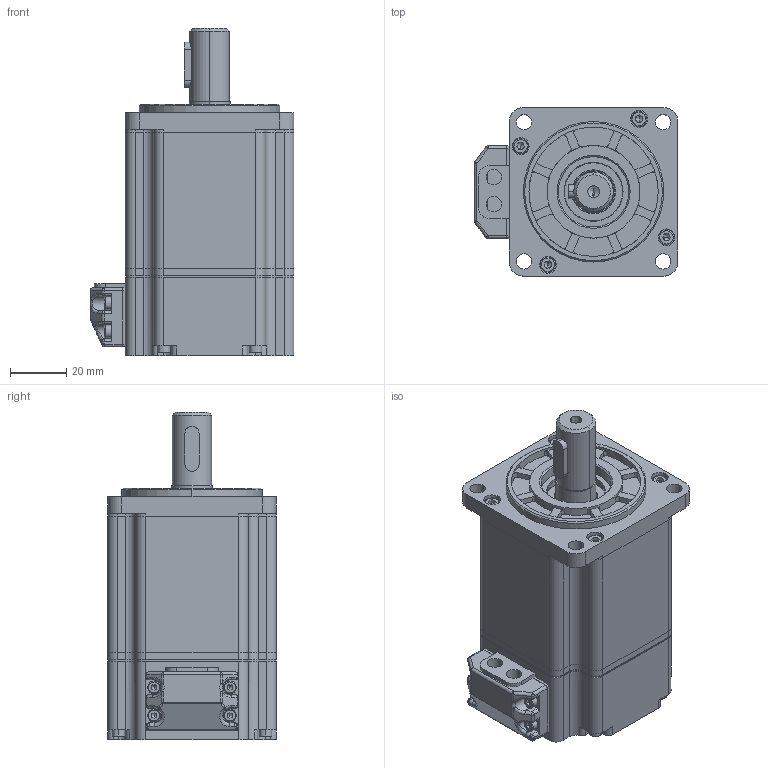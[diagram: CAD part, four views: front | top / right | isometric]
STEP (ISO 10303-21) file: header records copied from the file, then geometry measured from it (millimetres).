
FILE_DESCRIPTION (( 'STEP AP203' ), '1' );
FILE_NAME ('淕儂蚾饜1.STEP', '2020-03-17T06:42:39', ( 'admin' ), ( '' ), 'SwSTEP 2.0', 'SolidWorks 2016', '' );
FILE_SCHEMA (( 'CONFIG_CONTROL_DESIGN' ));
Length unit declared in the file: millimetre
Products named in the file (1): 淕儂蚾饜1
Bounding box: 72.5 x 60 x 116.5 mm (x, y, z)
Volume: 120926.2 mm3; surface area: 81808.5 mm2
Topology: 22 solids, 22 shells, 1310 faces, 3568 edges, 2238 vertices
Faces by surface type: cylinder 552, plane 465, cone 125, torus 98, sphere 58, bspline 12
Entity records: 43052 total; most frequent: CARTESIAN_POINT 9933, DIRECTION 7265, ORIENTED_EDGE 6788, EDGE_CURVE 3394, AXIS2_PLACEMENT_3D 2862, VERTEX_POINT 2174, CIRCLE 1563, VECTOR 1541
